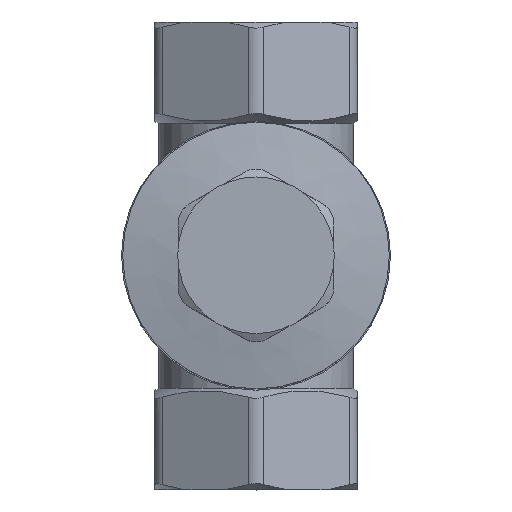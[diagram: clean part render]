
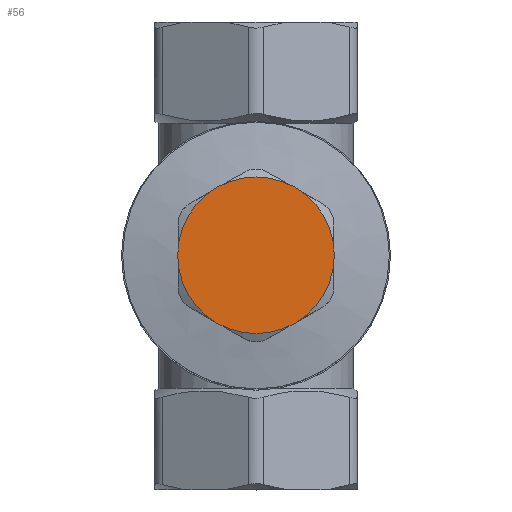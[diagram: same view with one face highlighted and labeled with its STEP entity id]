
A CAD part, top view. The second image highlights one B-rep face of the part: STEP entity #56.
In plain terms, the highlighted planar face has unit normal (0, 0, 1).
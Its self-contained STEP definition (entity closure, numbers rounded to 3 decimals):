
#56=ADVANCED_FACE('',(#488),#490,.T.);
#488=FACE_BOUND('',#489,.T.);
#489=EDGE_LOOP('',(#3605));
#490=PLANE('',#491);
#491=AXIS2_PLACEMENT_3D('',#492,#493,#494);
#492=CARTESIAN_POINT('',(0.,0.,55.5));
#493=DIRECTION('',(0.,0.,1.));
#494=DIRECTION('',(-1.,0.,0.));
#3605=ORIENTED_EDGE('',*,*,#5944,.T.);
#5944=EDGE_CURVE('',#6944,#6944,#6945,.T.);
#6944=VERTEX_POINT('',#8619);
#6945=CIRCLE('',#8620,10.05);
#8619=CARTESIAN_POINT('',(0.,10.05,55.5));
#8620=AXIS2_PLACEMENT_3D('',#8621,#8622,#8623);
#8621=CARTESIAN_POINT('',(0.,0.,55.5));
#8622=DIRECTION('',(0.,0.,1.));
#8623=DIRECTION('',(0.,1.,0.));
